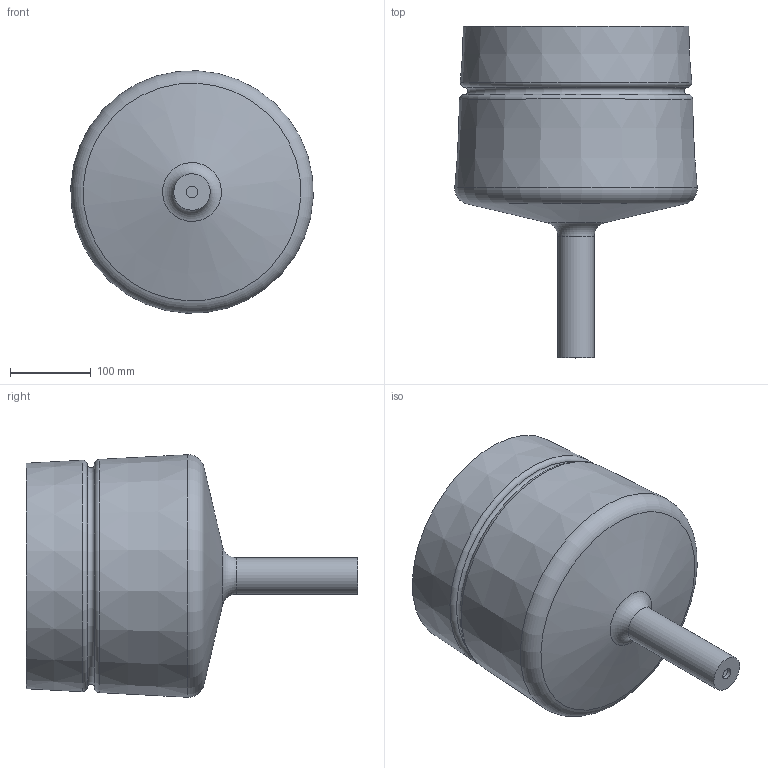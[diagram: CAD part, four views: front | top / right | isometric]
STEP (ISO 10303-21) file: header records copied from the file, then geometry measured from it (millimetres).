
FILE_DESCRIPTION(/* description */ (''),/* implementation_level */ '2;1');
FILE_NAME(/* name */ 'C:\Users\STEFANO\Desktop\1501-23 - ACORN SOSPENSIONE LARGE F.E\SEM.000010.stp',/* time_stamp */ '2019-09-10T16:13:32+02:00',/* author */ ('STEFANO'),/* organization */ (''),/* preprocessor_version */ 'ST-DEVELOPER v17',/* originating_system */ 'Autodesk Inventor 2019',/* authorisation */ '');
FILE_SCHEMA (('AUTOMOTIVE_DESIGN { 1 0 10303 214 3 1 1 }'));
Length unit declared in the file: millimetre
Products named in the file (3): SEM.000010; P08_023_1 - Corpo Large; LUCE
Assembly tree (2 placements, depth 2):
  SEM.000010
    P08_023_1 - Corpo Large
    LUCE
Bounding box: 299.63 x 410 x 299.63 mm (x, y, z)
Volume: 1955893.3 mm3; surface area: 631150 mm2
Topology: 2 solids, 2 shells, 30 faces, 90 edges, 66 vertices
Faces by surface type: torus 10, cone 8, cylinder 6, plane 6
Full cylindrical faces by diameter (mm): 14 x1, 35 x1, 45 x1, 100 x1, 120 x1, 150 x1
Entity records: 1208 total; most frequent: DIRECTION 236, CARTESIAN_POINT 191, ORIENTED_EDGE 180, AXIS2_PLACEMENT_3D 111, EDGE_CURVE 90, CIRCLE 76, VERTEX_POINT 66, EDGE_LOOP 34
